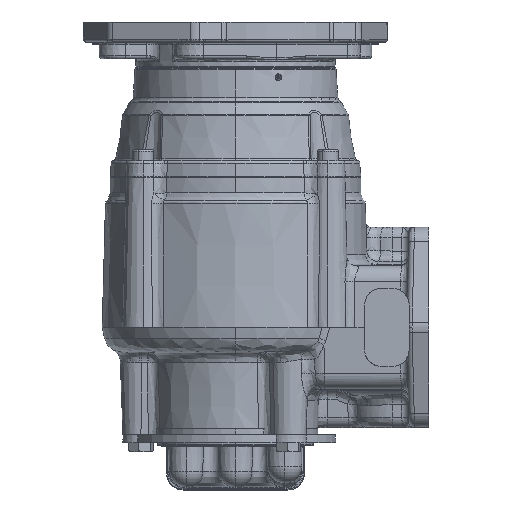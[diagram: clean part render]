
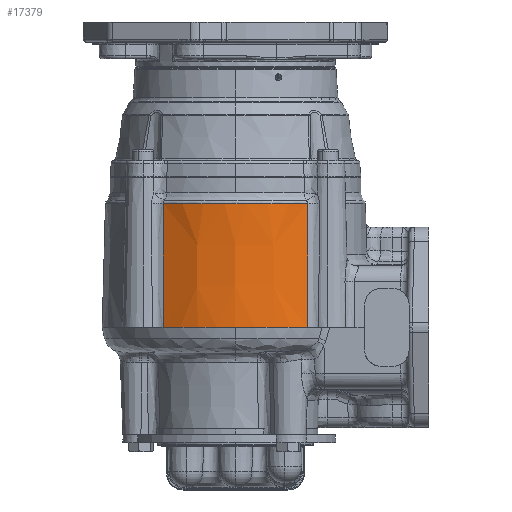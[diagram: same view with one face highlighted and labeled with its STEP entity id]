
A CAD part, left-side view. The second image highlights one B-rep face of the part: STEP entity #17379.
In plain terms, the highlighted conical face has half-angle 1.5 degrees and reference radius 76.073 mm.
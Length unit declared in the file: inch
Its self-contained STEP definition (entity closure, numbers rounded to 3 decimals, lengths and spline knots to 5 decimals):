
#2881 = AXIS2_PLACEMENT_3D ( 'NONE', #64036, #149652, #62390 ) ;
#7569 = VERTEX_POINT ( 'NONE', #41852 ) ;
#14146 = CARTESIAN_POINT ( 'NONE',  ( -3.42697, 1.89734, 1.88656 ) ) ;
#17379 = ADVANCED_FACE ( 'NONE', ( #98928 ), #156974, .T. ) ;
#18798 = VERTEX_POINT ( 'NONE', #46209 ) ;
#24227 = CARTESIAN_POINT ( 'NONE',  ( -3.4002, 5.14049, 2.77827 ) ) ;
#27558 = AXIS2_PLACEMENT_3D ( 'NONE', #114833, #99061, #75815 ) ;
#37651 = EDGE_LOOP ( 'NONE', ( #130321, #76776, #64305, #93612, #159124 ) ) ;
#37707 = CARTESIAN_POINT ( 'NONE',  ( -0.9685, 3.51989, 0. ) ) ;
#41852 = CARTESIAN_POINT ( 'NONE',  ( -3.4002, 5.14049, 2.77827 ) ) ;
#46209 = CARTESIAN_POINT ( 'NONE',  ( -3.9635, 3.51989, 0. ) ) ;
#48358 = EDGE_CURVE ( 'NONE', #7569, #149460, #51385, .T. ) ;
#49472 = B_SPLINE_CURVE_WITH_KNOTS ( 'NONE', 3,
 ( #77405, #156318, #14146, #64928 ),
 .UNSPECIFIED., .F., .F.,
 ( 4, 4 ),
 ( 0., 1. ),
 .UNSPECIFIED. ) ;
#51385 = B_SPLINE_CURVE_WITH_KNOTS ( 'NONE', 3,
 ( #24227, #99074, #150642, #162276 ),
 .UNSPECIFIED., .F., .F.,
 ( 4, 4 ),
 ( 0., 1. ),
 .UNSPECIFIED. ) ;
#51999 = CARTESIAN_POINT ( 'NONE',  ( -3.4002, 1.89928, 2.77827 ) ) ;
#53286 = CARTESIAN_POINT ( 'NONE',  ( -3.48267, 5.14745, 0. ) ) ;
#58424 = CIRCLE ( 'NONE', #127411, 2.995 ) ;
#62390 = DIRECTION ( 'NONE',  ( 0., 1., 0. ) ) ;
#64036 = CARTESIAN_POINT ( 'NONE',  ( -0.9685, 3.51989, 0. ) ) ;
#64305 = ORIENTED_EDGE ( 'NONE', *, *, #140849, .T. ) ;
#64928 = CARTESIAN_POINT ( 'NONE',  ( -3.4002, 1.89928, 2.77827 ) ) ;
#65997 = VERTEX_POINT ( 'NONE', #51999 ) ;
#66330 = DIRECTION ( 'NONE',  ( 1., 0., 0. ) ) ;
#67137 = DIRECTION ( 'NONE',  ( 0., 0., -1. ) ) ;
#75815 = DIRECTION ( 'NONE',  ( -1., 0., 0. ) ) ;
#76776 = ORIENTED_EDGE ( 'NONE', *, *, #141727, .T. ) ;
#76847 = DIRECTION ( 'NONE',  ( 1., 0., 0. ) ) ;
#77405 = CARTESIAN_POINT ( 'NONE',  ( -3.48267, 1.89232, 0. ) ) ;
#90345 = EDGE_CURVE ( 'NONE', #140728, #18798, #155272, .T. ) ;
#93612 = ORIENTED_EDGE ( 'NONE', *, *, #48358, .T. ) ;
#98928 = FACE_OUTER_BOUND ( 'NONE', #37651, .T. ) ;
#99061 = DIRECTION ( 'NONE',  ( 0., 0., -1. ) ) ;
#99074 = CARTESIAN_POINT ( 'NONE',  ( -3.42696, 5.14244, 1.88658 ) ) ;
#99253 = DIRECTION ( 'NONE',  ( 0., 0., -1. ) ) ;
#114833 = CARTESIAN_POINT ( 'NONE',  ( -0.9685, 3.51989, 2.77827 ) ) ;
#115643 = EDGE_CURVE ( 'NONE', #18798, #149460, #58424, .T. ) ;
#125592 = CARTESIAN_POINT ( 'NONE',  ( -0.9685, 3.51989, 0. ) ) ;
#127411 = AXIS2_PLACEMENT_3D ( 'NONE', #37707, #99253, #76847 ) ;
#130321 = ORIENTED_EDGE ( 'NONE', *, *, #90345, .F. ) ;
#136401 = CIRCLE ( 'NONE', #27558, 2.92225 ) ;
#139364 = AXIS2_PLACEMENT_3D ( 'NONE', #125592, #67137, #66330 ) ;
#140728 = VERTEX_POINT ( 'NONE', #149791 ) ;
#140849 = EDGE_CURVE ( 'NONE', #65997, #7569, #136401, .T. ) ;
#141727 = EDGE_CURVE ( 'NONE', #140728, #65997, #49472, .T. ) ;
#149460 = VERTEX_POINT ( 'NONE', #53286 ) ;
#149652 = DIRECTION ( 'NONE',  ( 0., 0., -1. ) ) ;
#149791 = CARTESIAN_POINT ( 'NONE',  ( -3.48267, 1.89232, 0. ) ) ;
#150642 = CARTESIAN_POINT ( 'NONE',  ( -3.45445, 5.14477, 0.96049 ) ) ;
#155272 = CIRCLE ( 'NONE', #139364, 2.995 ) ;
#156318 = CARTESIAN_POINT ( 'NONE',  ( -3.45445, 1.89501, 0.96047 ) ) ;
#156974 = CONICAL_SURFACE ( 'NONE', #2881, 2.995, 0.026 ) ;
#159124 = ORIENTED_EDGE ( 'NONE', *, *, #115643, .F. ) ;
#162276 = CARTESIAN_POINT ( 'NONE',  ( -3.48267, 5.14745, 0. ) ) ;
